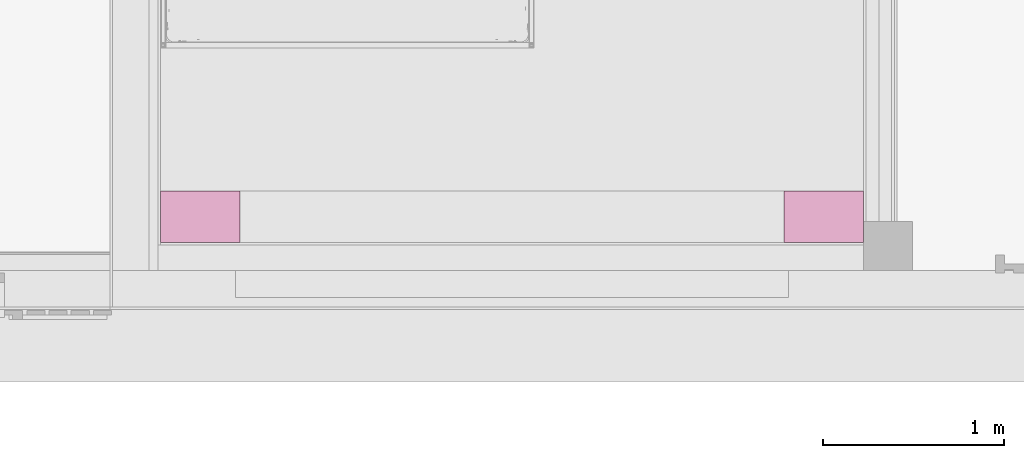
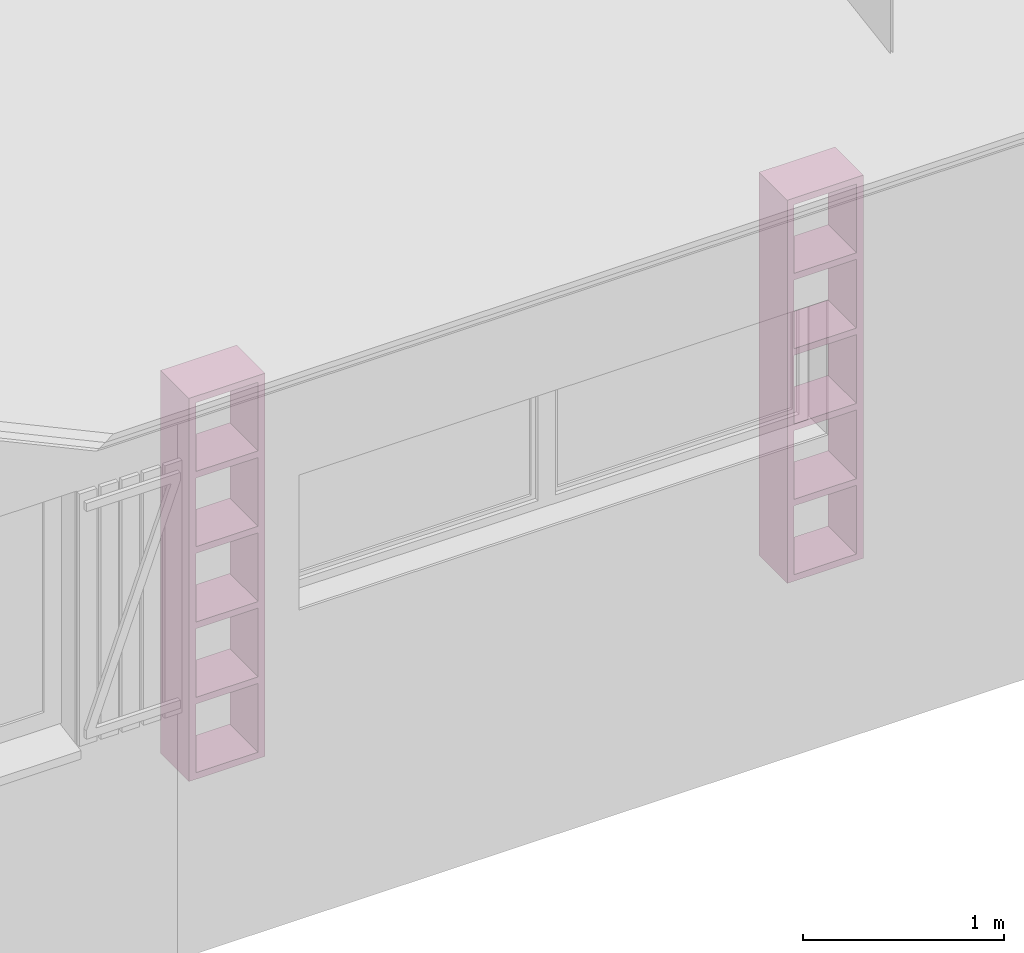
# One storey, part 19 of 24: 2 furnishings.
"""IFC2X3 building model written with IfcOpenShell, lengths in metres."""

from ifc_helpers import new_model, entity, si_unit, converted_unit, derived_unit, money_unit, direction, frame, origin_with_axes, place, context, subcontext, project, spatial, faceted_brep, source, transform, mapped, type_object, element, save


model = new_model("IFC2X3")

# Units and contexts
model_context = context("Model", 3, precision=1e-05, world=origin_with_axes(), true_north=direction((0.0, 1.0)))
body_context = subcontext(model_context, "Body", "Model", "MODEL_VIEW")
ifc_project = project(units=[si_unit("LENGTHUNIT", "METRE"), si_unit("AREAUNIT", "SQUARE_METRE"), si_unit("VOLUMEUNIT", "CUBIC_METRE"), converted_unit("PLANEANGLEUNIT", "DEGREE", entity("IfcPlaneAngleMeasure", 0.0174532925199), si_unit("PLANEANGLEUNIT", "RADIAN"), dimensions=[0, 0, 0, 0, 0, 0, 0]), si_unit("SOLIDANGLEUNIT", "STERADIAN"), money_unit("CHF"), converted_unit("TIMEUNIT", "Year", entity("IfcTimeMeasure", 31556926.0), si_unit("TIMEUNIT", "SECOND"), dimensions=[0, 0, 1, 0, 0, 0, 0]), si_unit("MASSUNIT", "GRAM", prefix="KILO"), si_unit("THERMODYNAMICTEMPERATUREUNIT", "DEGREE_CELSIUS"), si_unit("LUMINOUSINTENSITYUNIT", "LUMEN"), si_unit("ENERGYUNIT", "JOULE", prefix="MEGA"), derived_unit("THERMALCONDUCTANCEUNIT", [(si_unit("POWERUNIT", "WATT"), 1), (si_unit("LENGTHUNIT", "METRE"), -1), (si_unit("THERMODYNAMICTEMPERATUREUNIT", "KELVIN"), -1)]), derived_unit("SPECIFICHEATCAPACITYUNIT", [(si_unit("ENERGYUNIT", "JOULE"), 1), (si_unit("MASSUNIT", "GRAM", prefix="KILO"), -1), (si_unit("THERMODYNAMICTEMPERATUREUNIT", "KELVIN"), -1)]), derived_unit("MASSDENSITYUNIT", [(si_unit("MASSUNIT", "GRAM", prefix="KILO"), 1), (si_unit("VOLUMEUNIT", "CUBIC_METRE"), -1)])], contexts=[model_context])

# Site, building, storey
site_placement = place(None, origin_with_axes())
site = spatial("IfcSite", under=ifc_project, at=site_placement, Name="Site", CompositionType="ELEMENT")
building_placement = place(site_placement, origin_with_axes())
building = spatial("IfcBuilding", under=site, at=building_placement, Name="Bâtiment", CompositionType="ELEMENT")
storey_placement = place(building_placement, origin_with_axes())
storey = spatial("IfcBuildingStorey", under=building, at=storey_placement, Name="Rez-de-chaussée", CompositionType="ELEMENT", Elevation=0.0)

# Furnishings
furniture_type = type_object("IfcFurnitureType", Name="Etagère modulable 24", AssemblyPlace="NOTDEFINED")
shared_shape = source(origin_with_axes(), body_context, "Body", "Brep", [
    faceted_brep([(0.4375, 0.0, 0.0), (0.0, 0.0, 0.0), (0.0, 0.282307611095, 0.0), (0.4375, 0.282307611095, 0.0), (0.4375, 0.0, 0.04), (0.0, 0.0, 0.04), (0.0, 0.282307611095, 0.04), (0.4375, 0.282307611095, 0.04)], [[[0, 1, 2, 3]], [[1, 0, 4, 5]], [[2, 1, 5, 6]], [[3, 2, 6, 7]], [[0, 3, 7, 4]], [[5, 4, 7, 6]]]),
    faceted_brep([(0.04, 0.0, 0.04), (0.0, 0.0, 0.04), (0.0, 0.282307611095, 0.04), (0.04, 0.282307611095, 0.04), (0.04, 0.0, 0.457476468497), (0.0, 0.0, 0.457476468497), (0.0, 0.282307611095, 0.457476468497), (0.04, 0.282307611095, 0.457476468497)], [[[0, 1, 2, 3]], [[1, 0, 4, 5]], [[2, 1, 5, 6]], [[3, 2, 6, 7]], [[0, 3, 7, 4]], [[5, 4, 7, 6]]]),
    faceted_brep([(0.4375, 0.0, 0.04), (0.3975, 0.0, 0.04), (0.3975, 0.282307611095, 0.04), (0.4375, 0.282307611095, 0.04), (0.4375, 0.0, 0.457476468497), (0.3975, 0.0, 0.457476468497), (0.3975, 0.282307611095, 0.457476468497), (0.4375, 0.282307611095, 0.457476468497)], [[[0, 1, 2, 3]], [[1, 0, 4, 5]], [[2, 1, 5, 6]], [[3, 2, 6, 7]], [[0, 3, 7, 4]], [[5, 4, 7, 6]]]),
    faceted_brep([(0.4375, 0.0, 0.457476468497), (0.0, 0.0, 0.457476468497), (0.0, 0.282307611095, 0.457476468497), (0.4375, 0.282307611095, 0.457476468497), (0.4375, 0.0, 0.497476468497), (0.0, 0.0, 0.497476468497), (0.0, 0.282307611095, 0.497476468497), (0.4375, 0.282307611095, 0.497476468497)], [[[0, 1, 2, 3]], [[1, 0, 4, 5]], [[2, 1, 5, 6]], [[3, 2, 6, 7]], [[0, 3, 7, 4]], [[5, 4, 7, 6]]]),
    faceted_brep([(0.0, 0.0, 0.914952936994), (0.4375, 0.0, 0.914952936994), (0.4375, 0.0, 0.954952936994), (0.0, 0.0, 0.954952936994), (0.0, 0.282307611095, 0.914952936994), (0.4375, 0.282307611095, 0.914952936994), (0.4375, 0.282307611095, 0.954952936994), (0.0, 0.282307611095, 0.954952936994)], [[[0, 1, 2, 3]], [[0, 4, 5, 1]], [[1, 5, 6, 2]], [[3, 2, 6, 7]], [[4, 0, 3, 7]], [[5, 4, 7, 6]]]),
    faceted_brep([(0.04, 0.0, 0.497476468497), (0.0, 0.0, 0.497476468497), (0.0, 0.282307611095, 0.497476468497), (0.04, 0.282307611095, 0.497476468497), (0.04, 0.0, 0.914952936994), (0.0, 0.0, 0.914952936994), (0.0, 0.282307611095, 0.914952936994), (0.04, 0.282307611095, 0.914952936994)], [[[0, 1, 2, 3]], [[1, 0, 4, 5]], [[2, 1, 5, 6]], [[3, 2, 6, 7]], [[0, 3, 7, 4]], [[5, 4, 7, 6]]]),
    faceted_brep([(0.4375, 0.0, 0.497476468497), (0.3975, 0.0, 0.497476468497), (0.3975, 0.282307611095, 0.497476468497), (0.4375, 0.282307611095, 0.497476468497), (0.4375, 0.0, 0.914952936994), (0.3975, 0.0, 0.914952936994), (0.3975, 0.282307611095, 0.914952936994), (0.4375, 0.282307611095, 0.914952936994)], [[[0, 1, 2, 3]], [[1, 0, 4, 5]], [[2, 1, 5, 6]], [[3, 2, 6, 7]], [[0, 3, 7, 4]], [[5, 4, 7, 6]]]),
    faceted_brep([(0.0, 0.0, 1.37242940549), (0.4375, 0.0, 1.37242940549), (0.4375, 0.0, 1.41242940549), (0.0, 0.0, 1.41242940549), (0.0, 0.282307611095, 1.37242940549), (0.4375, 0.282307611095, 1.37242940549), (0.4375, 0.282307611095, 1.41242940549), (0.0, 0.282307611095, 1.41242940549)], [[[0, 1, 2, 3]], [[0, 4, 5, 1]], [[1, 5, 6, 2]], [[3, 2, 6, 7]], [[4, 0, 3, 7]], [[5, 4, 7, 6]]]),
    faceted_brep([(0.04, 0.0, 0.954952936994), (0.0, 0.0, 0.954952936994), (0.0, 0.282307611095, 0.954952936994), (0.04, 0.282307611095, 0.954952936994), (0.04, 0.0, 1.37242940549), (0.0, 0.0, 1.37242940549), (0.0, 0.282307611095, 1.37242940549), (0.04, 0.282307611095, 1.37242940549)], [[[0, 1, 2, 3]], [[1, 0, 4, 5]], [[2, 1, 5, 6]], [[3, 2, 6, 7]], [[0, 3, 7, 4]], [[5, 4, 7, 6]]]),
    faceted_brep([(0.4375, 0.0, 0.954952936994), (0.3975, 0.0, 0.954952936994), (0.3975, 0.282307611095, 0.954952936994), (0.4375, 0.282307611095, 0.954952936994), (0.4375, 0.0, 1.37242940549), (0.3975, 0.0, 1.37242940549), (0.3975, 0.282307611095, 1.37242940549), (0.4375, 0.282307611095, 1.37242940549)], [[[0, 1, 2, 3]], [[1, 0, 4, 5]], [[2, 1, 5, 6]], [[3, 2, 6, 7]], [[0, 3, 7, 4]], [[5, 4, 7, 6]]]),
    faceted_brep([(0.0, 0.0, 1.82990587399), (0.4375, 0.0, 1.82990587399), (0.4375, 0.0, 1.86990587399), (0.0, 0.0, 1.86990587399), (0.0, 0.282307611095, 1.82990587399), (0.4375, 0.282307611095, 1.82990587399), (0.4375, 0.282307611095, 1.86990587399), (0.0, 0.282307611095, 1.86990587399)], [[[0, 1, 2, 3]], [[0, 4, 5, 1]], [[1, 5, 6, 2]], [[3, 2, 6, 7]], [[4, 0, 3, 7]], [[5, 4, 7, 6]]]),
    faceted_brep([(0.04, 0.0, 1.41242940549), (0.0, 0.0, 1.41242940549), (0.0, 0.282307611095, 1.41242940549), (0.04, 0.282307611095, 1.41242940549), (0.04, 0.0, 1.82990587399), (0.0, 0.0, 1.82990587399), (0.0, 0.282307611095, 1.82990587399), (0.04, 0.282307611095, 1.82990587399)], [[[0, 1, 2, 3]], [[1, 0, 4, 5]], [[2, 1, 5, 6]], [[3, 2, 6, 7]], [[0, 3, 7, 4]], [[5, 4, 7, 6]]]),
    faceted_brep([(0.4375, 0.0, 1.41242940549), (0.3975, 0.0, 1.41242940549), (0.3975, 0.282307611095, 1.41242940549), (0.4375, 0.282307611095, 1.41242940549), (0.4375, 0.0, 1.82990587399), (0.3975, 0.0, 1.82990587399), (0.3975, 0.282307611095, 1.82990587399), (0.4375, 0.282307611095, 1.82990587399)], [[[0, 1, 2, 3]], [[1, 0, 4, 5]], [[2, 1, 5, 6]], [[3, 2, 6, 7]], [[0, 3, 7, 4]], [[5, 4, 7, 6]]]),
    faceted_brep([(0.0, 0.0, 2.28738234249), (0.4375, 0.0, 2.28738234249), (0.4375, 0.0, 2.32738234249), (0.0, 0.0, 2.32738234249), (0.0, 0.282307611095, 2.28738234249), (0.4375, 0.282307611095, 2.28738234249), (0.4375, 0.282307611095, 2.32738234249), (0.0, 0.282307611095, 2.32738234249)], [[[0, 1, 2, 3]], [[0, 4, 5, 1]], [[1, 5, 6, 2]], [[3, 2, 6, 7]], [[4, 0, 3, 7]], [[5, 4, 7, 6]]]),
    faceted_brep([(0.04, 0.0, 1.86990587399), (0.0, 0.0, 1.86990587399), (0.0, 0.282307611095, 1.86990587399), (0.04, 0.282307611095, 1.86990587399), (0.04, 0.0, 2.28738234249), (0.0, 0.0, 2.28738234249), (0.0, 0.282307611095, 2.28738234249), (0.04, 0.282307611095, 2.28738234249)], [[[0, 1, 2, 3]], [[1, 0, 4, 5]], [[2, 1, 5, 6]], [[3, 2, 6, 7]], [[0, 3, 7, 4]], [[5, 4, 7, 6]]]),
    faceted_brep([(0.4375, 0.0, 1.86990587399), (0.3975, 0.0, 1.86990587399), (0.3975, 0.282307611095, 1.86990587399), (0.4375, 0.282307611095, 1.86990587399), (0.4375, 0.0, 2.28738234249), (0.3975, 0.0, 2.28738234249), (0.3975, 0.282307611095, 2.28738234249), (0.4375, 0.282307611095, 2.28738234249)], [[[0, 1, 2, 3]], [[1, 0, 4, 5]], [[2, 1, 5, 6]], [[3, 2, 6, 7]], [[0, 3, 7, 4]], [[5, 4, 7, 6]]]),
])
for number, where, z_axis, x_axis, name in (
    (1, (23.6671417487, 8.1079346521, 0.16), (0.0, 0.0, 1.0), (1.0, 0.0, 0.0), "MOBILIER-016"),
    (2, (27.1046417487, 8.1079346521, 0.16), (0.0, 0.0, 1.0), (1.0, 0.0, 0.0), "MOBILIER-016"),
):
    element("IfcFurnishingElement", number, at=place(storey_placement, frame(where, z_axis=z_axis, x_axis=x_axis)), inside=storey, type_object=furniture_type, Name=name, context=body_context, shape_type="MappedRepresentation", body=[
        mapped(shared_shape, transform((0.0, 0.0, 0.0))),
    ])

save(model, "model.ifc")
